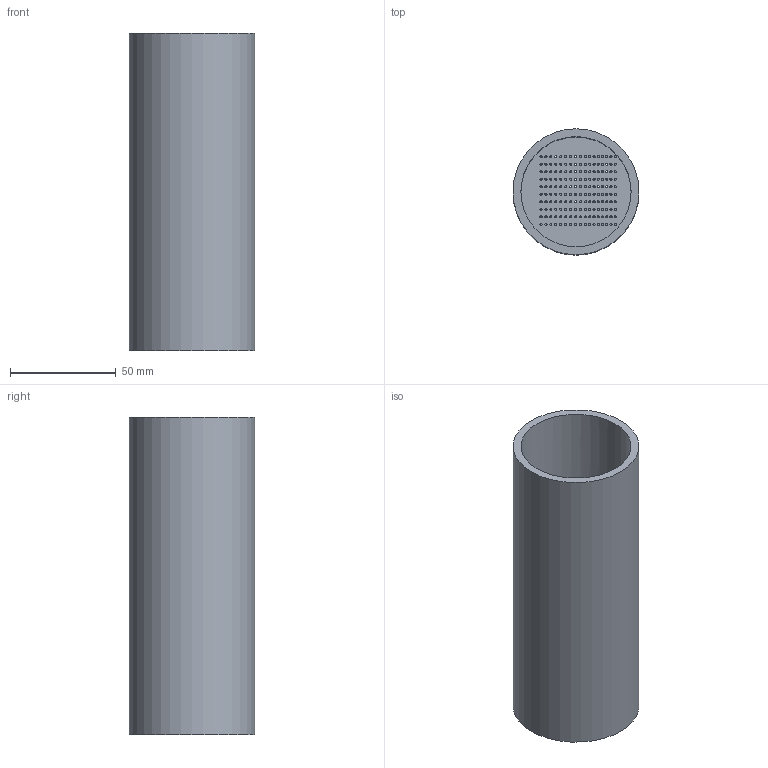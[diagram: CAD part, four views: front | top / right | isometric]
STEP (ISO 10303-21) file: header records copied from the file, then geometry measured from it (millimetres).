
FILE_DESCRIPTION(/* description */ (''),/* implementation_level */ '2;1');
FILE_NAME(/* name */ 'D:/Files/3D/For Submission/Main Container.step',/* time_stamp */ '2020-10-28T00:59:38+05:00',/* author */ (''),/* organization */ (''),/* preprocessor_version */ 'ST-DEVELOPER v18.1',/* originating_system */ 'Autodesk Translation Framework v9.3.0.1241',/* authorisation */ '');
FILE_SCHEMA (('AUTOMOTIVE_DESIGN { 1 0 10303 214 3 1 1 }'));
Length unit declared in the file: millimetre
Products named in the file (1): Main Container
Bounding box: 59.43 x 59.43 x 150 mm (x, y, z)
Volume: 109848 mm3; surface area: 64138.5 mm2
Topology: 2 solids, 2 shells, 210 faces, 615 edges, 410 vertices
Faces by surface type: cylinder 205, plane 5
Full cylindrical faces by diameter (mm): 1 x170, 5 x24, 52 x2, 59.434 x1
Entity records: 8060 total; most frequent: DIRECTION 1447, CARTESIAN_POINT 1236, ORIENTED_EDGE 1230, AXIS2_PLACEMENT_3D 621, EDGE_CURVE 615, EDGE_LOOP 607, CIRCLE 410, VERTEX_POINT 410
